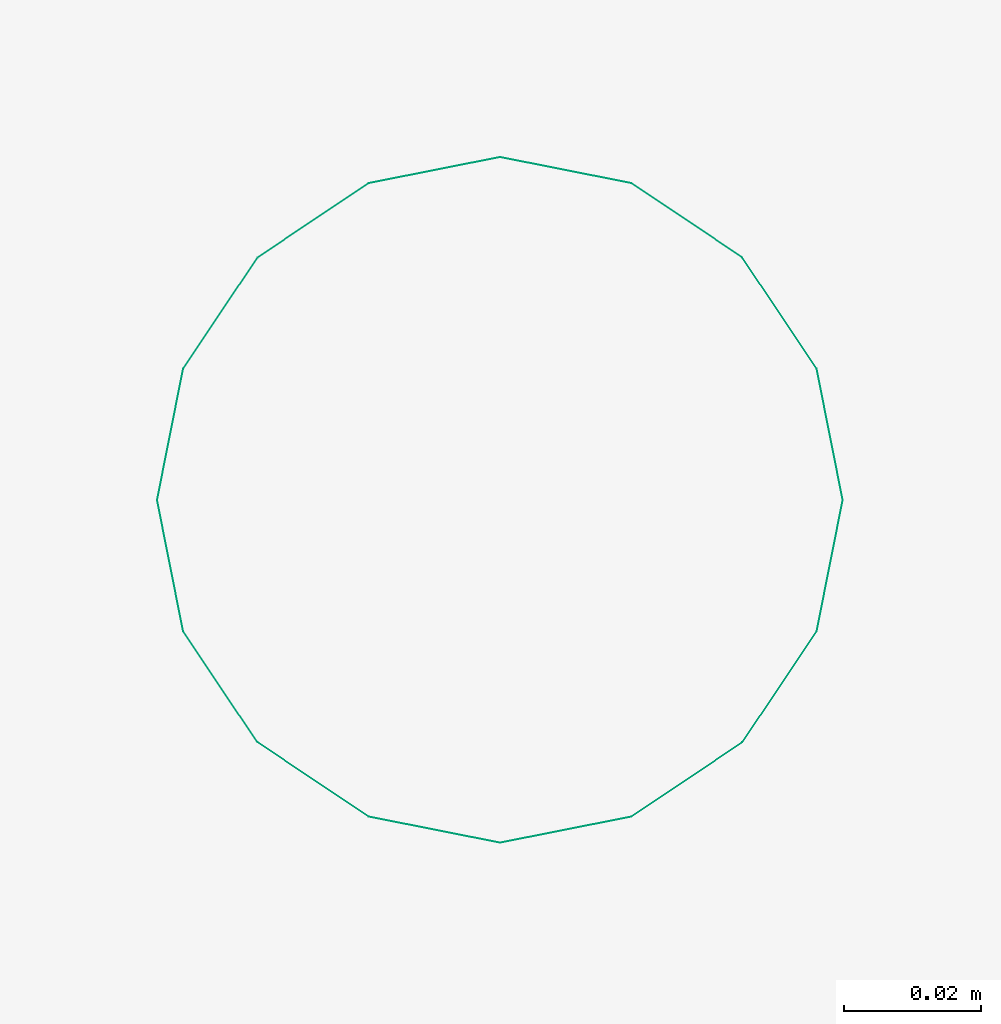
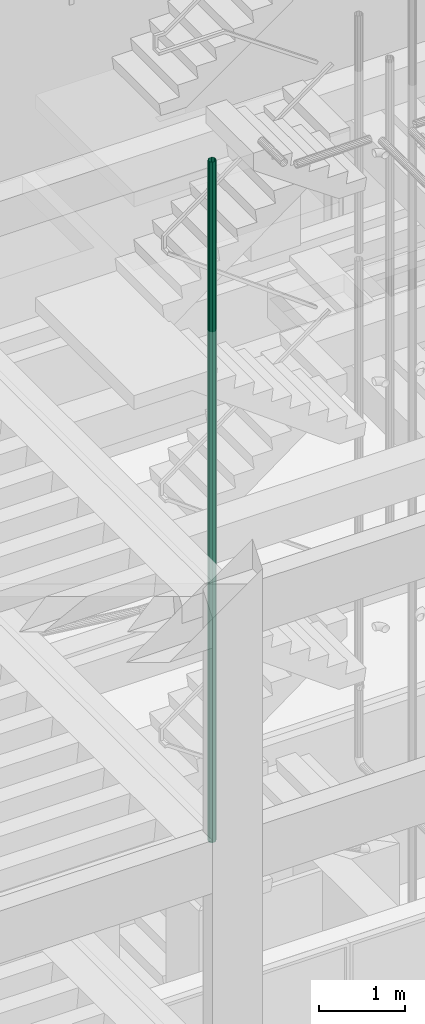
# One storey, part 38 of 106: 1 flow segment.
"""IFC2X3 building model written with IfcOpenShell, lengths in metres."""

from ifc_helpers import new_model, entity, si_unit, converted_unit, derived_unit, money_unit, direction, frame, origin_with_axes, place, context, subcontext, project, spatial, faceted_brep, material, type_object, element, save


model = new_model("IFC2X3")

# Units and contexts
model_context = context("Model", 3, precision=1e-05, world=origin_with_axes(), true_north=direction((0.0, 1.0)))
body_context = subcontext(model_context, "Body", "Model", "MODEL_VIEW", scale=1.0)
ifc_project = project(units=[si_unit("LENGTHUNIT", "METRE"), si_unit("AREAUNIT", "SQUARE_METRE"), si_unit("VOLUMEUNIT", "CUBIC_METRE"), si_unit("ABSORBEDDOSEUNIT", "GRAY"), si_unit("AMOUNTOFSUBSTANCEUNIT", "MOLE"), si_unit("DOSEEQUIVALENTUNIT", "SIEVERT"), si_unit("ELECTRICCAPACITANCEUNIT", "FARAD"), si_unit("ELECTRICCHARGEUNIT", "COULOMB"), si_unit("ELECTRICCONDUCTANCEUNIT", "SIEMENS"), si_unit("ELECTRICCURRENTUNIT", "AMPERE"), si_unit("ELECTRICRESISTANCEUNIT", "OHM"), si_unit("ELECTRICVOLTAGEUNIT", "VOLT"), si_unit("ENERGYUNIT", "JOULE"), si_unit("FORCEUNIT", "NEWTON"), si_unit("FREQUENCYUNIT", "HERTZ"), si_unit("ILLUMINANCEUNIT", "LUX"), si_unit("INDUCTANCEUNIT", "HENRY"), si_unit("LUMINOUSFLUXUNIT", "LUMEN"), si_unit("LUMINOUSINTENSITYUNIT", "CANDELA"), si_unit("MAGNETICFLUXDENSITYUNIT", "TESLA"), si_unit("MAGNETICFLUXUNIT", "WEBER"), si_unit("MASSUNIT", "GRAM"), converted_unit("PLANEANGLEUNIT", "degree", entity("IfcReal", 0.0174532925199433), si_unit("PLANEANGLEUNIT", "RADIAN"), dimensions=[0, 0, 0, 0, 0, 0, 0]), si_unit("POWERUNIT", "WATT"), si_unit("PRESSUREUNIT", "PASCAL"), si_unit("RADIOACTIVITYUNIT", "BECQUEREL"), si_unit("SOLIDANGLEUNIT", "STERADIAN"), si_unit("THERMODYNAMICTEMPERATUREUNIT", "KELVIN"), si_unit("TIMEUNIT", "SECOND"), derived_unit("ACCELERATIONUNIT", [(si_unit("LENGTHUNIT", "METRE"), 1), (si_unit("TIMEUNIT", "SECOND"), -2)]), derived_unit("ANGULARVELOCITYUNIT", [(converted_unit("PLANEANGLEUNIT", "degree", entity("IfcReal", 0.0174532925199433), si_unit("PLANEANGLEUNIT", "RADIAN"), dimensions=[0, 0, 0, 0, 0, 0, 0]), 1), (si_unit("TIMEUNIT", "SECOND"), -1)]), derived_unit("CURVATUREUNIT", [(converted_unit("PLANEANGLEUNIT", "degree", entity("IfcReal", 0.0174532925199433), si_unit("PLANEANGLEUNIT", "RADIAN"), dimensions=[0, 0, 0, 0, 0, 0, 0]), 1), (si_unit("LENGTHUNIT", "METRE"), -1)]), derived_unit("DYNAMICVISCOSITYUNIT", [(si_unit("PRESSUREUNIT", "PASCAL"), 1), (si_unit("TIMEUNIT", "SECOND"), 1)]), derived_unit("HEATFLUXDENSITYUNIT", [(si_unit("POWERUNIT", "WATT"), 1), (si_unit("LENGTHUNIT", "METRE"), -2)]), derived_unit("HEATINGVALUEUNIT", [(si_unit("ENERGYUNIT", "JOULE"), 1), (si_unit("MASSUNIT", "GRAM"), -1)]), derived_unit("INTEGERCOUNTRATEUNIT", [(si_unit("TIMEUNIT", "SECOND"), -1)]), derived_unit("IONCONCENTRATIONUNIT", [(si_unit("MASSUNIT", "GRAM"), 1), (si_unit("VOLUMEUNIT", "CUBIC_METRE"), -1)]), derived_unit("ISOTHERMALMOISTURECAPACITYUNIT", [(si_unit("VOLUMEUNIT", "CUBIC_METRE"), 1), (si_unit("MASSUNIT", "GRAM"), -1)]), derived_unit("KINEMATICVISCOSITYUNIT", [(si_unit("AREAUNIT", "SQUARE_METRE"), 1), (si_unit("TIMEUNIT", "SECOND"), -1)]), derived_unit("LINEARFORCEUNIT", [(si_unit("FORCEUNIT", "NEWTON"), 1), (si_unit("LENGTHUNIT", "METRE"), -1)]), derived_unit("LINEARMOMENTUNIT", [(si_unit("FORCEUNIT", "NEWTON"), 1), (si_unit("LENGTHUNIT", "METRE"), -1)]), derived_unit("LINEARSTIFFNESSUNIT", [(si_unit("FORCEUNIT", "NEWTON"), 1), (si_unit("LENGTHUNIT", "METRE"), -1)]), derived_unit("LINEARVELOCITYUNIT", [(si_unit("LENGTHUNIT", "METRE"), 1), (si_unit("TIMEUNIT", "SECOND"), -1)]), derived_unit("LUMINOUSINTENSITYDISTRIBUTIONUNIT", [(si_unit("LUMINOUSINTENSITYUNIT", "CANDELA"), 1), (si_unit("LUMINOUSFLUXUNIT", "LUMEN"), -1)]), derived_unit("MASSDENSITYUNIT", [(si_unit("MASSUNIT", "GRAM"), 1), (si_unit("VOLUMEUNIT", "CUBIC_METRE"), -1)]), derived_unit("MASSFLOWRATEUNIT", [(si_unit("MASSUNIT", "GRAM"), 1), (si_unit("TIMEUNIT", "SECOND"), -1)]), derived_unit("MASSPERLENGTHUNIT", [(si_unit("MASSUNIT", "GRAM"), 1), (si_unit("LENGTHUNIT", "METRE"), -1)]), derived_unit("MODULUSOFELASTICITYUNIT", [(si_unit("FORCEUNIT", "NEWTON"), 1), (si_unit("AREAUNIT", "SQUARE_METRE"), -1)]), derived_unit("MODULUSOFLINEARSUBGRADEREACTIONUNIT", [(si_unit("FORCEUNIT", "NEWTON"), 1), (si_unit("LENGTHUNIT", "METRE"), -2)]), derived_unit("MODULUSOFROTATIONALSUBGRADEREACTIONUNIT", [(si_unit("FORCEUNIT", "NEWTON"), 1), (si_unit("LENGTHUNIT", "METRE"), 1)]), derived_unit("MODULUSOFSUBGRADEREACTIONUNIT", [(si_unit("FORCEUNIT", "NEWTON"), 1), (si_unit("VOLUMEUNIT", "CUBIC_METRE"), -1)]), derived_unit("MOISTUREDIFFUSIVITYUNIT", [(si_unit("VOLUMEUNIT", "CUBIC_METRE"), 1), (si_unit("TIMEUNIT", "SECOND"), -1)]), derived_unit("MOLECULARWEIGHTUNIT", [(si_unit("MASSUNIT", "GRAM"), 1), (si_unit("AMOUNTOFSUBSTANCEUNIT", "MOLE"), -1)]), derived_unit("PLANARFORCEUNIT", [(si_unit("FORCEUNIT", "NEWTON"), 1), (si_unit("LENGTHUNIT", "METRE"), -2)]), derived_unit("ROTATIONALFREQUENCYUNIT", [(si_unit("TIMEUNIT", "SECOND"), -1)]), derived_unit("ROTATIONALMASSUNIT", [(si_unit("MASSUNIT", "GRAM"), 1), (si_unit("LENGTHUNIT", "METRE"), 2)]), derived_unit("ROTATIONALSTIFFNESSUNIT", [(si_unit("FORCEUNIT", "NEWTON"), 1), (si_unit("LENGTHUNIT", "METRE"), 1), (converted_unit("PLANEANGLEUNIT", "degree", entity("IfcReal", 0.0174532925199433), si_unit("PLANEANGLEUNIT", "RADIAN"), dimensions=[0, 0, 0, 0, 0, 0, 0]), -1)]), derived_unit("SECTIONAREAINTEGRALUNIT", [(si_unit("LENGTHUNIT", "METRE"), 5)]), derived_unit("SECTIONMODULUSUNIT", [(si_unit("LENGTHUNIT", "METRE"), 3)]), derived_unit("SHEARMODULUSUNIT", [(si_unit("FORCEUNIT", "NEWTON"), 1), (si_unit("AREAUNIT", "SQUARE_METRE"), -1)]), derived_unit("SOUNDPOWERUNIT", [(si_unit("ENERGYUNIT", "JOULE"), 1), (si_unit("TIMEUNIT", "SECOND"), -1)]), derived_unit("SPECIFICHEATCAPACITYUNIT", [(si_unit("FORCEUNIT", "NEWTON"), 1), (si_unit("MASSUNIT", "GRAM"), -1), (si_unit("THERMODYNAMICTEMPERATUREUNIT", "KELVIN"), -1)]), derived_unit("TEMPERATUREGRADIENTUNIT", [(si_unit("THERMODYNAMICTEMPERATUREUNIT", "KELVIN"), 1), (si_unit("LENGTHUNIT", "METRE"), -1)]), derived_unit("THERMALADMITTANCEUNIT", [(si_unit("POWERUNIT", "WATT"), 1), (si_unit("AREAUNIT", "SQUARE_METRE"), -1), (si_unit("THERMODYNAMICTEMPERATUREUNIT", "KELVIN"), -1)]), derived_unit("THERMALCONDUCTANCEUNIT", [(si_unit("POWERUNIT", "WATT"), 1), (si_unit("LENGTHUNIT", "METRE"), -1), (si_unit("THERMODYNAMICTEMPERATUREUNIT", "KELVIN"), -1)]), derived_unit("THERMALEXPANSIONCOEFFICIENTUNIT", [(si_unit("THERMODYNAMICTEMPERATUREUNIT", "KELVIN"), -1)]), derived_unit("THERMALRESISTANCEUNIT", [(si_unit("AREAUNIT", "SQUARE_METRE"), 1), (si_unit("POWERUNIT", "WATT"), -1)]), derived_unit("THERMALTRANSMITTANCEUNIT", [(si_unit("POWERUNIT", "WATT"), 1), (si_unit("AREAUNIT", "SQUARE_METRE"), -1), (si_unit("THERMODYNAMICTEMPERATUREUNIT", "KELVIN"), -1)]), derived_unit("TORQUEUNIT", [(si_unit("FORCEUNIT", "NEWTON"), 1), (si_unit("LENGTHUNIT", "METRE"), 1)]), derived_unit("VAPORPERMEABILITYUNIT", [(si_unit("MASSUNIT", "GRAM"), 1), (si_unit("TIMEUNIT", "SECOND"), -1)]), derived_unit("VOLUMETRICFLOWRATEUNIT", [(si_unit("VOLUMEUNIT", "CUBIC_METRE"), 1), (si_unit("TIMEUNIT", "SECOND"), -1)]), derived_unit("WARPINGCONSTANTUNIT", [(si_unit("LENGTHUNIT", "METRE"), 6)]), derived_unit("WARPINGMOMENTUNIT", [(si_unit("FORCEUNIT", "NEWTON"), 1), (si_unit("LENGTHUNIT", "METRE"), 2)]), money_unit("GBP")], contexts=[model_context])

# Site, building, storey
site_placement = place(None, origin_with_axes())
site = spatial("IfcSite", under=ifc_project, at=site_placement, Name="Site", CompositionType="ELEMENT")
building_placement = place(site_placement, origin_with_axes())
building = spatial("IfcBuilding", under=site, at=building_placement, Name="Building01", CompositionType="ELEMENT")
storey_placement = place(building_placement, origin_with_axes())
storey = spatial("IfcBuildingStorey", under=building, at=storey_placement, Name="GF", CompositionType="ELEMENT", Elevation=0.0)

# Flow segment
ifc_material = material(Name="M_BSUK_ColdWater")
pipe_segment_type = type_object("IfcPipeSegmentType", Name="M-BmpStraightpipe-DefaultPipe", PredefinedType="RIGIDSEGMENT")
flow_segment_placement = place(storey_placement, frame((11.481257, 4.846478, 14.500742), z_axis=(1.0, 0.0, 0.0), x_axis=(0.0, 0.0, -1.0)))
element("IfcFlowSegment", 1, at=flow_segment_placement, inside=storey, type_object=pipe_segment_type, material=ifc_material, Name="M-BmpStraightpipe-DefaultPipe", ObjectType="M-BmpStraightpipe-DefaultPipe", context=body_context, shape_type="Brep", body=[
    faceted_brep([(9.685922, 0.0, -0.05), (0.0, 0.0, -0.05), (0.0, 0.019134, -0.046194), (9.685922, 0.019134, -0.046194), (0.0, 0.035355, -0.035355), (9.685922, 0.035355, -0.035355), (0.0, 0.046194, -0.019134), (9.685922, 0.046194, -0.019134), (0.0, 0.05, 0.0), (9.685922, 0.05, 0.0), (0.0, 0.046194, 0.019134), (9.685922, 0.046194, 0.019134), (0.0, 0.035355, 0.035355), (9.685922, 0.035355, 0.035355), (0.0, 0.019134, 0.046194), (9.685922, 0.019134, 0.046194), (0.0, 0.0, 0.05), (9.685922, 0.0, 0.05), (0.0, -0.019134, 0.046194), (9.685922, -0.019134, 0.046194), (0.0, -0.035355, 0.035355), (9.685922, -0.035355, 0.035355), (0.0, -0.046194, 0.019134), (9.685922, -0.046194, 0.019134), (0.0, -0.05, 0.0), (9.685922, -0.05, 0.0), (0.0, -0.046194, -0.019134), (9.685922, -0.046194, -0.019134), (0.0, -0.035355, -0.035355), (9.685922, -0.035355, -0.035355), (0.0, -0.019134, -0.046194), (9.685922, -0.019134, -0.046194)], [[[0, 1, 2, 3]], [[3, 2, 4, 5]], [[5, 4, 6, 7]], [[7, 6, 8, 9]], [[9, 8, 10, 11]], [[11, 10, 12, 13]], [[13, 12, 14, 15]], [[15, 14, 16, 17]], [[17, 16, 18, 19]], [[19, 18, 20, 21]], [[21, 20, 22, 23]], [[23, 22, 24, 25]], [[25, 24, 26, 27]], [[27, 26, 28, 29]], [[29, 28, 30, 31]], [[31, 30, 1, 0]]]),
])

save(model, "model.ifc")
